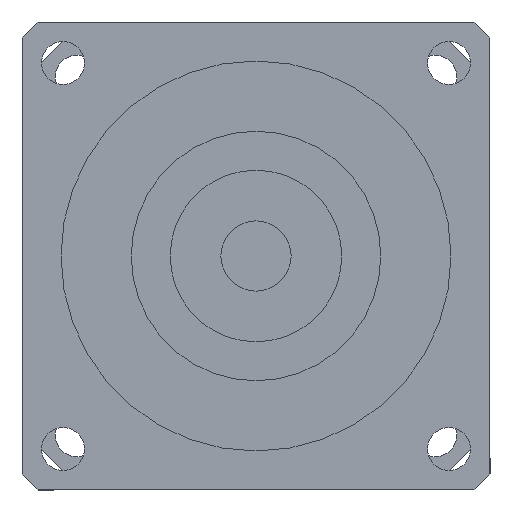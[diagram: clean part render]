
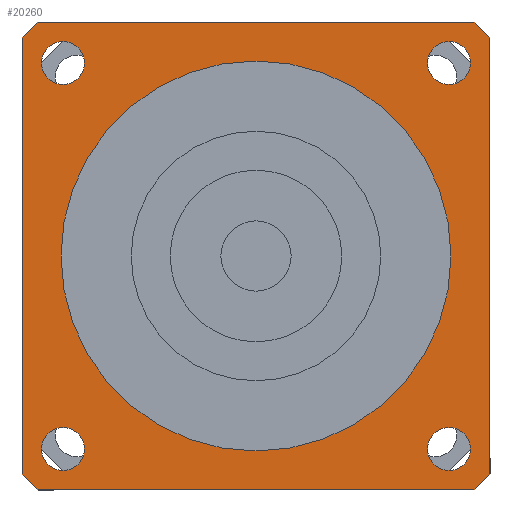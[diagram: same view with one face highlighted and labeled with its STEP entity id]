
A CAD part, left-side view. The second image highlights one B-rep face of the part: STEP entity #20260.
In plain terms, the highlighted planar face has unit normal (-1, 0, 0) as drawn and (0, 0, -1) by its records, which use the part's own axes.
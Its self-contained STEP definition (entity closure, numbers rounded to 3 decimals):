
#11110=CARTESIAN_POINT('',(-30.,27.946,-58.5));
#11120=VERTEX_POINT('',#11110);
#11270=CARTESIAN_POINT('',(-30.,-27.946,-58.5));
#11280=VERTEX_POINT('',#11270);
#11310=CARTESIAN_POINT('',(-30.,30.,-58.5));
#11320=DIRECTION('',(0.,-1.,0.));
#11330=VECTOR('',#11320,1000.);
#11340=LINE('',#11310,#11330);
#11350=EDGE_CURVE('',#11120,#11280,#11340,.T.);
#12930=CARTESIAN_POINT('',(-27.946,-30.,-58.5));
#12940=VERTEX_POINT('',#12930);
#12970=CARTESIAN_POINT('',(0.,0.,
-58.5));
#12980=DIRECTION('',(0.,0.,1.));
#12990=DIRECTION('',(0.,-1.,0.));
#13000=AXIS2_PLACEMENT_3D('',#12970,#12980,#12990);
#13010=CIRCLE('',#13000,41.);
#13020=EDGE_CURVE('',#11280,#12940,#13010,.T.);
#17850=CARTESIAN_POINT('',(-27.946,30.,-58.5));
#17860=VERTEX_POINT('',#17850);
#17910=CARTESIAN_POINT('',(0.,0.,
-58.5));
#17920=DIRECTION('',(0.,0.,1.));
#17930=DIRECTION('',(0.,-1.,0.));
#17940=AXIS2_PLACEMENT_3D('',#17910,#17920,#17930);
#17950=CIRCLE('',#17940,41.);
#17960=EDGE_CURVE('',#17860,#11120,#17950,.T.);
#18100=CARTESIAN_POINT('',(27.946,30.,-58.5));
#18110=VERTEX_POINT('',#18100);
#18160=CARTESIAN_POINT('',(30.,30.,-58.5));
#18170=DIRECTION('',(-1.,0.,0.));
#18180=VECTOR('',#18170,1000.);
#18190=LINE('',#18160,#18180);
#18200=EDGE_CURVE('',#18110,#17860,#18190,.T.);
#18310=CARTESIAN_POINT('',(0.,0.,
-58.5));
#18320=DIRECTION('',(0.,0.,1.));
#18330=DIRECTION('',(0.,-1.,0.));
#18340=AXIS2_PLACEMENT_3D('',#18310,#18320,#18330);
#18350=CIRCLE('',#18340,41.);
#18360=CARTESIAN_POINT('',(30.,27.946,-58.5));
#18370=VERTEX_POINT('',#18360);
#18380=EDGE_CURVE('',#18370,#18110,#18350,.T.);
#18590=CARTESIAN_POINT('',(30.,-27.946,-58.5));
#18600=VERTEX_POINT('',#18590);
#18650=CARTESIAN_POINT('',(30.,-30.,-58.5));
#18660=DIRECTION('',(0.,1.,0.));
#18670=VECTOR('',#18660,1000.);
#18680=LINE('',#18650,#18670);
#18690=EDGE_CURVE('',#18600,#18370,#18680,.T.);
#18830=CARTESIAN_POINT('',(27.946,-30.,-58.5));
#18840=VERTEX_POINT('',#18830);
#18890=CARTESIAN_POINT('',(0.,0.,
-58.5));
#18900=DIRECTION('',(0.,0.,1.));
#18910=DIRECTION('',(0.,-1.,0.));
#18920=AXIS2_PLACEMENT_3D('',#18890,#18900,#18910);
#18930=CIRCLE('',#18920,41.);
#18940=EDGE_CURVE('',#18840,#18600,#18930,.T.);
#19070=CARTESIAN_POINT('',(-30.,-30.,-58.5));
#19080=DIRECTION('',(1.,0.,0.));
#19090=VECTOR('',#19080,1000.);
#19100=LINE('',#19070,#19090);
#19110=EDGE_CURVE('',#12940,#18840,#19100,.T.);
#19160=CARTESIAN_POINT('',(-30.,30.,-58.5));
#19170=DIRECTION('',(0.,0.,1.));
#19180=DIRECTION('',(-1.,0.,0.));
#19190=AXIS2_PLACEMENT_3D('',#19160,#19170,#19180);
#19200=PLANE('',#19190);
#19210=CARTESIAN_POINT('',(24.749,-24.749,-58.5));
#19220=DIRECTION('',(0.,0.,-1.));
#19230=DIRECTION('',(1.,0.,0.));
#19240=AXIS2_PLACEMENT_3D('',#19210,#19220,#19230);
#19250=CIRCLE('',#19240,2.75);
#19260=CARTESIAN_POINT('',(27.499,-24.749,-58.5));
#19270=VERTEX_POINT('',#19260);
#19280=CARTESIAN_POINT('',(24.749,-27.499,-58.5));
#19290=VERTEX_POINT('',#19280);
#19300=EDGE_CURVE('',#19270,#19290,#19250,.T.);
#19310=ORIENTED_EDGE('',*,*,#19300,.F.);
#19320=CARTESIAN_POINT('',(24.749,-21.999,-58.5));
#19330=VERTEX_POINT('',#19320);
#19340=EDGE_CURVE('',#19290,#19330,#19250,.T.);
#19350=ORIENTED_EDGE('',*,*,#19340,.F.);
#19360=EDGE_CURVE('',#19330,#19270,#19250,.T.);
#19370=ORIENTED_EDGE('',*,*,#19360,.F.);
#19380=EDGE_LOOP('',(#19370,#19350,#19310));
#19390=FACE_BOUND('',#19380,.T.);
#19400=CARTESIAN_POINT('',(24.749,24.749,-58.5));
#19410=DIRECTION('',(0.,0.,-1.));
#19420=DIRECTION('',(0.,1.,0.));
#19430=AXIS2_PLACEMENT_3D('',#19400,#19410,#19420);
#19440=CIRCLE('',#19430,2.75);
#19450=CARTESIAN_POINT('',(24.749,27.499,-58.5));
#19460=VERTEX_POINT('',#19450);
#19470=CARTESIAN_POINT('',(27.499,24.749,-58.5));
#19480=VERTEX_POINT('',#19470);
#19490=EDGE_CURVE('',#19460,#19480,#19440,.T.);
#19500=ORIENTED_EDGE('',*,*,#19490,.F.);
#19510=CARTESIAN_POINT('',(21.999,24.749,-58.5));
#19520=VERTEX_POINT('',#19510);
#19530=EDGE_CURVE('',#19480,#19520,#19440,.T.);
#19540=ORIENTED_EDGE('',*,*,#19530,.F.);
#19550=EDGE_CURVE('',#19520,#19460,#19440,.T.);
#19560=ORIENTED_EDGE('',*,*,#19550,.F.);
#19570=EDGE_LOOP('',(#19560,#19540,#19500));
#19580=FACE_BOUND('',#19570,.T.);
#19590=CARTESIAN_POINT('',(-24.749,24.749,-58.5));
#19600=DIRECTION('',(0.,0.,-1.));
#19610=DIRECTION('',(-1.,0.,0.));
#19620=AXIS2_PLACEMENT_3D('',#19590,#19600,#19610);
#19630=CIRCLE('',#19620,2.75);
#19640=CARTESIAN_POINT('',(-27.499,24.749,-58.5));
#19650=VERTEX_POINT('',#19640);
#19660=CARTESIAN_POINT('',(-24.749,27.499,-58.5));
#19670=VERTEX_POINT('',#19660);
#19680=EDGE_CURVE('',#19650,#19670,#19630,.T.);
#19690=ORIENTED_EDGE('',*,*,#19680,.F.);
#19700=CARTESIAN_POINT('',(-24.749,21.999,-58.5));
#19710=VERTEX_POINT('',#19700);
#19720=EDGE_CURVE('',#19670,#19710,#19630,.T.);
#19730=ORIENTED_EDGE('',*,*,#19720,.F.);
#19740=EDGE_CURVE('',#19710,#19650,#19630,.T.);
#19750=ORIENTED_EDGE('',*,*,#19740,.F.);
#19760=EDGE_LOOP('',(#19750,#19730,#19690));
#19770=FACE_BOUND('',#19760,.T.);
#19780=CARTESIAN_POINT('',(-24.749,-24.749,-58.5));
#19790=DIRECTION('',(0.,0.,-1.));
#19800=DIRECTION('',(0.,-1.,0.));
#19810=AXIS2_PLACEMENT_3D('',#19780,#19790,#19800);
#19820=CIRCLE('',#19810,2.75);
#19830=CARTESIAN_POINT('',(-24.749,-27.499,-58.5));
#19840=VERTEX_POINT('',#19830);
#19850=CARTESIAN_POINT('',(-27.499,-24.749,-58.5));
#19860=VERTEX_POINT('',#19850);
#19870=EDGE_CURVE('',#19840,#19860,#19820,.T.);
#19880=ORIENTED_EDGE('',*,*,#19870,.F.);
#19890=CARTESIAN_POINT('',(-21.999,-24.749,-58.5));
#19900=VERTEX_POINT('',#19890);
#19910=EDGE_CURVE('',#19860,#19900,#19820,.T.);
#19920=ORIENTED_EDGE('',*,*,#19910,.F.);
#19930=EDGE_CURVE('',#19900,#19840,#19820,.T.);
#19940=ORIENTED_EDGE('',*,*,#19930,.F.);
#19950=EDGE_LOOP('',(#19940,#19920,#19880));
#19960=FACE_BOUND('',#19950,.T.);
#19970=ORIENTED_EDGE('',*,*,#13020,.F.);
#19980=ORIENTED_EDGE('',*,*,#19110,.F.);
#19990=ORIENTED_EDGE('',*,*,#18940,.F.);
#20000=ORIENTED_EDGE('',*,*,#18690,.F.);
#20010=ORIENTED_EDGE('',*,*,#18380,.F.);
#20020=ORIENTED_EDGE('',*,*,#18200,.F.);
#20030=ORIENTED_EDGE('',*,*,#17960,.F.);
#20040=ORIENTED_EDGE('',*,*,#11350,.F.);
#20050=EDGE_LOOP('',(#20040,#20030,#20020,#20010,#20000,#19990,#19980,
#19970));
#20060=FACE_OUTER_BOUND('',#20050,.T.);
#20070=CARTESIAN_POINT('',(0.,0.,
-58.5));
#20080=DIRECTION('',(0.,0.,1.));
#20090=DIRECTION('',(0.,-1.,0.));
#20100=AXIS2_PLACEMENT_3D('',#20070,#20080,#20090);
#20110=CIRCLE('',#20100,25.);
#20120=CARTESIAN_POINT('',(25.,0.,-58.5));
#20130=VERTEX_POINT('',#20120);
#20140=CARTESIAN_POINT('',(-25.,0.,-58.5));
#20150=VERTEX_POINT('',#20140);
#20160=EDGE_CURVE('',#20130,#20150,#20110,.T.);
#20170=ORIENTED_EDGE('',*,*,#20160,.T.);
#20180=CARTESIAN_POINT('',(0.,-25.,-58.5));
#20190=VERTEX_POINT('',#20180);
#20200=EDGE_CURVE('',#20190,#20130,#20110,.T.);
#20210=ORIENTED_EDGE('',*,*,#20200,.T.);
#20220=EDGE_CURVE('',#20150,#20190,#20110,.T.);
#20230=ORIENTED_EDGE('',*,*,#20220,.T.);
#20240=EDGE_LOOP('',(#20230,#20210,#20170));
#20250=FACE_BOUND('',#20240,.T.);
#20260=ADVANCED_FACE('',(#19390,#19580,#19770,#19960,#20060,#20250),
#19200,.F.);
